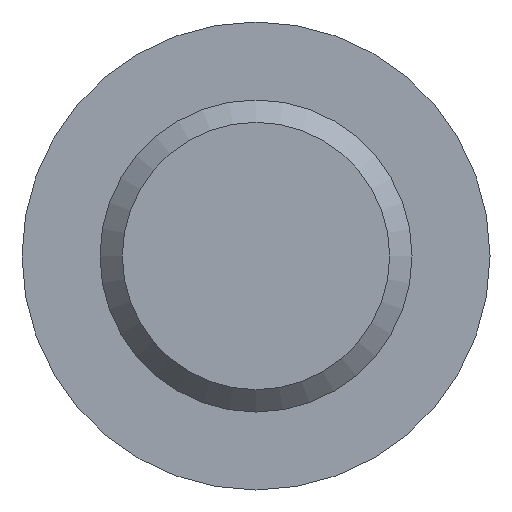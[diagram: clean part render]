
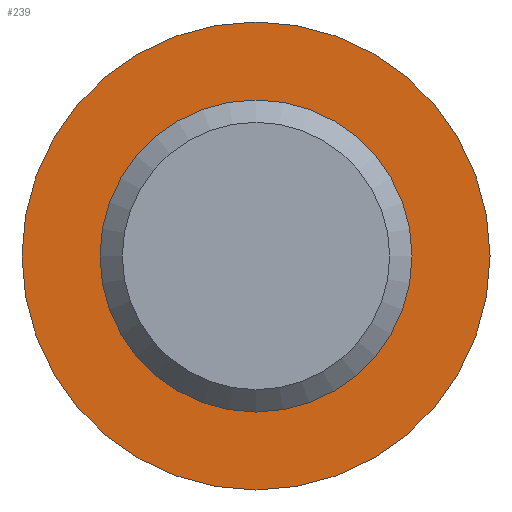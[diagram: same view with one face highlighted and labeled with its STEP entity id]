
A CAD part, front view. The second image highlights one B-rep face of the part: STEP entity #239.
In plain terms, the highlighted planar face has unit normal (0, -1, 0).
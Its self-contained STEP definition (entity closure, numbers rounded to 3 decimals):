
#23=FACE_BOUND('',#64,.T.);
#33=PLANE('',#282);
#48=FACE_OUTER_BOUND('',#63,.T.);
#63=EDGE_LOOP('',(#214));
#64=EDGE_LOOP('',(#215));
#100=CIRCLE('',#265,15.);
#106=CIRCLE('',#275,22.5);
#109=VERTEX_POINT('',#356);
#120=VERTEX_POINT('',#384);
#133=EDGE_CURVE('',#109,#109,#100,.T.);
#146=EDGE_CURVE('',#120,#120,#106,.T.);
#214=ORIENTED_EDGE('',*,*,#146,.T.);
#215=ORIENTED_EDGE('',*,*,#133,.T.);
#239=ADVANCED_FACE('',(#48,#23),#33,.F.);
#265=AXIS2_PLACEMENT_3D('',#358,#296,#297);
#275=AXIS2_PLACEMENT_3D('',#386,#323,#324);
#282=AXIS2_PLACEMENT_3D('',#427,#343,#344);
#296=DIRECTION('center_axis',(0.,1.,0.));
#297=DIRECTION('ref_axis',(-1.,0.,0.));
#323=DIRECTION('center_axis',(0.,-1.,0.));
#324=DIRECTION('ref_axis',(1.,0.,0.));
#343=DIRECTION('center_axis',(0.,1.,0.));
#344=DIRECTION('ref_axis',(0.,0.,1.));
#356=CARTESIAN_POINT('',(15.,0.,0.));
#358=CARTESIAN_POINT('Origin',(0.,0.,0.));
#384=CARTESIAN_POINT('',(-22.5,0.,0.));
#386=CARTESIAN_POINT('Origin',(0.,0.,0.));
#427=CARTESIAN_POINT('Origin',(0.,0.,0.));
